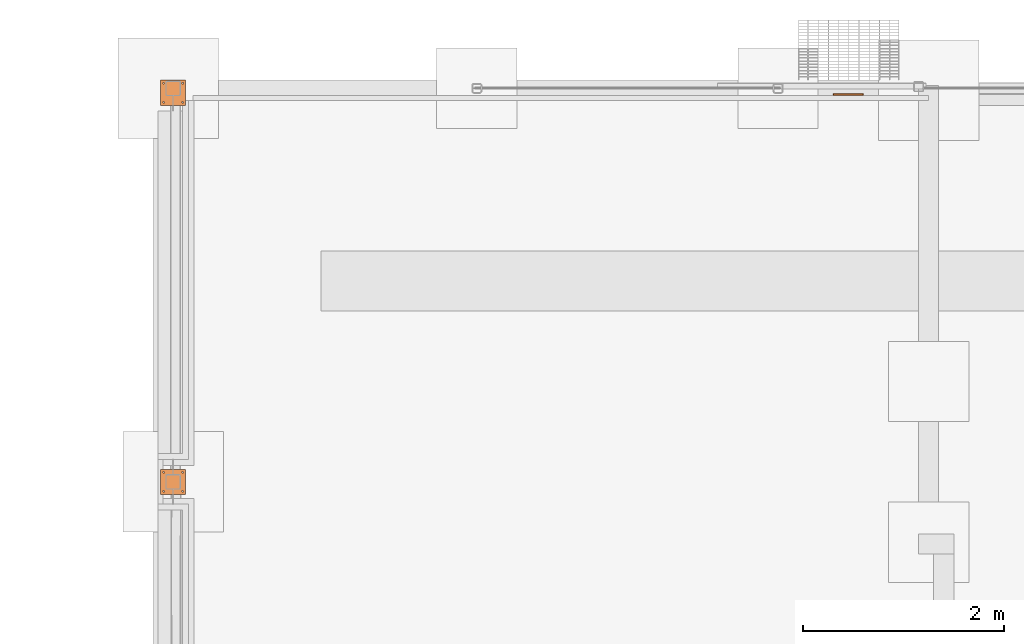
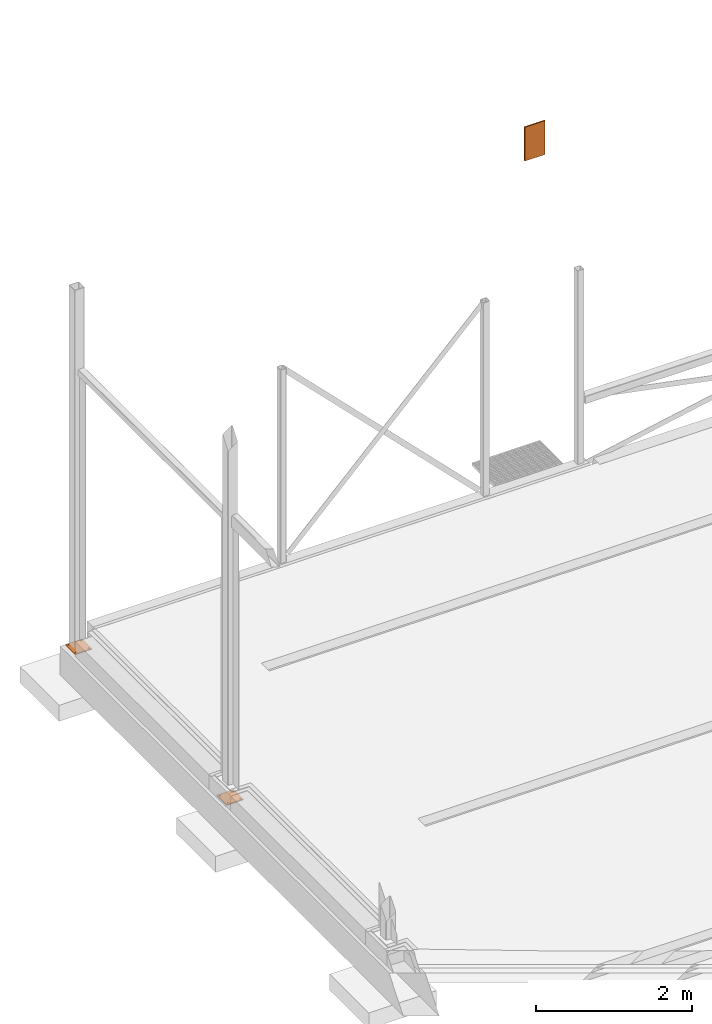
# One storey, part 17 of 18: 3 proxies.
"""IFC2X3 building model written with IfcOpenShell, lengths in millimetres."""

from ifc_helpers import new_model, entity, si_unit, converted_unit, derived_unit, direction, frame, frame_2d, origin, origin_2d_with_axis, place, context, subcontext, project, spatial, polyline, circle_curve, parameter, trimmed, segment, composite_curve, rectangle, outline, extrude, source, transform, mapped, material, type_object, type_shapes, element, save


model = new_model("IFC2X3")

# Units and contexts
model_context = context("Model", 3, precision=0.01, world=origin(), true_north=direction((6.12303176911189e-17, 1.0)))
body_context = subcontext(model_context, "Body", "Model", "MODEL_VIEW")
ifc_project = project(units=[si_unit("LENGTHUNIT", "METRE", prefix="MILLI"), si_unit("AREAUNIT", "SQUARE_METRE"), si_unit("VOLUMEUNIT", "CUBIC_METRE"), converted_unit("PLANEANGLEUNIT", "DEGREE", entity("IfcRatioMeasure", 0.0174532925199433), si_unit("PLANEANGLEUNIT", "RADIAN"), dimensions=[0, 0, 0, 0, 0, 0, 0]), si_unit("MASSUNIT", "GRAM", prefix="KILO"), derived_unit("MASSDENSITYUNIT", [(si_unit("MASSUNIT", "GRAM", prefix="KILO"), 1), (si_unit("LENGTHUNIT", "METRE"), -3)]), si_unit("TIMEUNIT", "SECOND"), si_unit("FREQUENCYUNIT", "HERTZ"), si_unit("THERMODYNAMICTEMPERATUREUNIT", "DEGREE_CELSIUS"), derived_unit("THERMALTRANSMITTANCEUNIT", [(si_unit("MASSUNIT", "GRAM", prefix="KILO"), 1), (si_unit("THERMODYNAMICTEMPERATUREUNIT", "KELVIN"), -1), (si_unit("TIMEUNIT", "SECOND"), -3)]), derived_unit("VOLUMETRICFLOWRATEUNIT", [(si_unit("LENGTHUNIT", "METRE"), 3), (si_unit("TIMEUNIT", "SECOND"), -1)]), si_unit("ELECTRICCURRENTUNIT", "AMPERE"), si_unit("ELECTRICVOLTAGEUNIT", "VOLT"), si_unit("POWERUNIT", "WATT"), si_unit("FORCEUNIT", "NEWTON", prefix="KILO"), si_unit("ILLUMINANCEUNIT", "LUX"), si_unit("LUMINOUSFLUXUNIT", "LUMEN"), si_unit("LUMINOUSINTENSITYUNIT", "CANDELA"), derived_unit("USERDEFINED", [(si_unit("MASSUNIT", "GRAM", prefix="KILO"), -1), (si_unit("LENGTHUNIT", "METRE"), -2), (si_unit("TIMEUNIT", "SECOND"), 3), (si_unit("LUMINOUSFLUXUNIT", "LUMEN"), 1)]), derived_unit("LINEARVELOCITYUNIT", [(si_unit("LENGTHUNIT", "METRE"), 1), (si_unit("TIMEUNIT", "SECOND"), -1)]), si_unit("PRESSUREUNIT", "PASCAL"), derived_unit("USERDEFINED", [(si_unit("LENGTHUNIT", "METRE"), -2), (si_unit("MASSUNIT", "GRAM", prefix="KILO"), 1), (si_unit("TIMEUNIT", "SECOND"), -2)])], contexts=[model_context])

# Site, building, storey
site_placement = place(None, frame((0.0, 0.0, 101000.0)))
site = spatial("IfcSite", under=ifc_project, at=site_placement, Name="Default", CompositionType="ELEMENT")
building_placement = place(site_placement, origin())
building = spatial("IfcBuilding", under=site, at=building_placement, CompositionType="ELEMENT")
storey_placement = place(building_placement, origin())
storey = spatial("IfcBuildingStorey", under=building, at=storey_placement, Name="01", CompositionType="ELEMENT", Elevation=8.9295595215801e-10)

# Proxies
ifc_material_1 = material(Name="S355")
building_element_proxy_type_1 = type_object("IfcBuildingElementProxyType", Name="250x250x15", PredefinedType="NOTDEFINED", material=ifc_material_1)
shared_shape_1 = source(origin(), body_context, "Body", "SweptSolid", [
    extrude(outline(polyline([(-125.0, -125.0), (125.0, -125.0), (125.0, 125.0), (-125.0, 125.0), (-125.0, -125.0)]), holes=[composite_curve([segment(trimmed(circle_curve(frame_2d((95.0, -95.0), x_axis=(-1.0, 0.0)), 8.0), [parameter(180.0)], [parameter(360.0)], True, "PARAMETER"), False, "CONTINUOUS"), segment(trimmed(circle_curve(frame_2d((95.0, -95.0), x_axis=(-1.0, 0.0)), 8.0), [parameter(3.56222124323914e-13)], [parameter(180.0)], True, "PARAMETER"), False, "CONTINUOUS")], self_intersect=False), composite_curve([segment(trimmed(circle_curve(frame_2d((-95.0, 95.0), x_axis=(-1.0, 0.0)), 8.0), [parameter(180.0)], [parameter(360.0)], True, "PARAMETER"), False, "CONTINUOUS"), segment(trimmed(circle_curve(frame_2d((-95.0, 95.0), x_axis=(-1.0, 0.0)), 8.0), [parameter(3.56222124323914e-13)], [parameter(180.0)], True, "PARAMETER"), False, "CONTINUOUS")], self_intersect=False), composite_curve([segment(trimmed(circle_curve(frame_2d((95.0, 95.0), x_axis=(-1.0, 0.0)), 8.0), [parameter(180.0)], [parameter(359.999999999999)], True, "PARAMETER"), False, "CONTINUOUS"), segment(trimmed(circle_curve(frame_2d((95.0, 95.0), x_axis=(-1.0, 0.0)), 8.0), [parameter(360.0)], [parameter(180.0)], True, "PARAMETER"), False, "CONTINUOUS")], self_intersect=False), composite_curve([segment(trimmed(circle_curve(frame_2d((-95.0, -95.0), x_axis=(-1.0, 0.0)), 8.0), [parameter(180.0)], [parameter(360.0)], True, "PARAMETER"), False, "CONTINUOUS"), segment(trimmed(circle_curve(frame_2d((-95.0, -95.0), x_axis=(-1.0, 0.0)), 8.0), [parameter(3.56222124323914e-13)], [parameter(180.0)], True, "PARAMETER"), False, "CONTINUOUS")], self_intersect=False)]), frame((0.0, 0.0, -15.0), z_axis=(0.0, 0.0, 1.0), x_axis=(-1.0, 0.0, 0.0)), (0.0, 0.0, 1.0), 15.000000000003),
])
type_shapes(building_element_proxy_type_1, [shared_shape_1])
proxy_1_placement = place(storey_placement, frame((3761.26449698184, 44292.9507529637, -250.0)))
element("IfcBuildingElementProxy", 1, at=proxy_1_placement, inside=storey, type_object=building_element_proxy_type_1, material=ifc_material_1, Name="Innstøpningsplate_uten klør_4hull:250x250x15", ObjectType="250x250x15", context=body_context, shape_type="MappedRepresentation", body=[
    mapped(shared_shape_1, transform((0.0, 0.0, 0.0), scale=1.0)),
])
building_element_proxy_type_2 = type_object("IfcBuildingElementProxyType", Name="250x250x15", PredefinedType="NOTDEFINED", material=ifc_material_1)
shared_shape_2 = source(origin(), body_context, "Body", "SweptSolid", [
    extrude(outline(polyline([(-125.0, -125.0), (125.0, -125.0), (125.0, 125.0), (-125.0, 125.0), (-125.0, -125.0)]), holes=[composite_curve([segment(trimmed(circle_curve(frame_2d((95.0, -95.0), x_axis=(-1.0, 0.0)), 8.0), [parameter(180.0)], [parameter(360.0)], True, "PARAMETER"), False, "CONTINUOUS"), segment(trimmed(circle_curve(frame_2d((95.0, -95.0), x_axis=(-1.0, 0.0)), 8.0), [parameter(3.56222124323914e-13)], [parameter(180.0)], True, "PARAMETER"), False, "CONTINUOUS")], self_intersect=False), composite_curve([segment(trimmed(circle_curve(frame_2d((-95.0, 95.0), x_axis=(-1.0, 0.0)), 8.0), [parameter(180.0)], [parameter(360.0)], True, "PARAMETER"), False, "CONTINUOUS"), segment(trimmed(circle_curve(frame_2d((-95.0, 95.0), x_axis=(-1.0, 0.0)), 8.0), [parameter(3.56222124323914e-13)], [parameter(180.0)], True, "PARAMETER"), False, "CONTINUOUS")], self_intersect=False), composite_curve([segment(trimmed(circle_curve(frame_2d((95.0, 95.0), x_axis=(-1.0, 0.0)), 8.0), [parameter(180.0)], [parameter(359.999999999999)], True, "PARAMETER"), False, "CONTINUOUS"), segment(trimmed(circle_curve(frame_2d((95.0, 95.0), x_axis=(-1.0, 0.0)), 8.0), [parameter(360.0)], [parameter(180.0)], True, "PARAMETER"), False, "CONTINUOUS")], self_intersect=False), composite_curve([segment(trimmed(circle_curve(frame_2d((-95.0, -95.0), x_axis=(-1.0, 0.0)), 8.0), [parameter(180.0)], [parameter(360.0)], True, "PARAMETER"), False, "CONTINUOUS"), segment(trimmed(circle_curve(frame_2d((-95.0, -95.0), x_axis=(-1.0, 0.0)), 8.0), [parameter(3.56222124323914e-13)], [parameter(180.0)], True, "PARAMETER"), False, "CONTINUOUS")], self_intersect=False)]), frame((3761.26449698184, 40417.9507529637, -265.0), z_axis=(0.0, 0.0, 1.0), x_axis=(-1.0, 0.0, 0.0)), (0.0, 0.0, 1.0), 15.000000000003),
])
type_shapes(building_element_proxy_type_2, [shared_shape_2])
proxy_2_placement = place(storey_placement, origin())
element("IfcBuildingElementProxy", 2, at=proxy_2_placement, inside=storey, type_object=building_element_proxy_type_2, material=ifc_material_1, Name="Innstøpningsplate_uten klør_4hull:250x250x15", ObjectType="250x250x15", context=body_context, shape_type="MappedRepresentation", body=[
    mapped(shared_shape_2, transform((0.0, 0.0, 0.0), scale=1.0)),
])
ifc_material_2 = material(Name="Stål - S355")
building_element_proxy_type_3 = type_object("IfcBuildingElementProxyType", Name="SPL 530x300", PredefinedType="NOTDEFINED", material=ifc_material_2)
shared_shape_3 = source(origin(), body_context, "Body", "SweptSolid", [
    extrude(rectangle(XDim=300.0, YDim=529.999999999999, at=origin_2d_with_axis()), frame((0.0, 0.0, -15.0), z_axis=(0.0, 0.0, 1.0), x_axis=(-1.0, 0.0, 0.0)), (0.0, 0.0, 1.0), 15.0000000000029),
])
type_shapes(building_element_proxy_type_3, [shared_shape_3])
proxy_3_placement = place(storey_placement, frame((10486.2644969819, 44267.9507529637, 5305.0), z_axis=(0.0, -1.0, 0.0), x_axis=(-1.0, 0.0, 0.0)))
element("IfcBuildingElementProxy", 3, at=proxy_3_placement, inside=storey, type_object=building_element_proxy_type_3, material=ifc_material_2, Name="Innstøpningsplate_PLANE:SPL 530x300", ObjectType="SPL 530x300", context=body_context, shape_type="MappedRepresentation", body=[
    mapped(shared_shape_3, transform((0.0, 0.0, 0.0), scale=1.0)),
])

save(model, "model.ifc")
